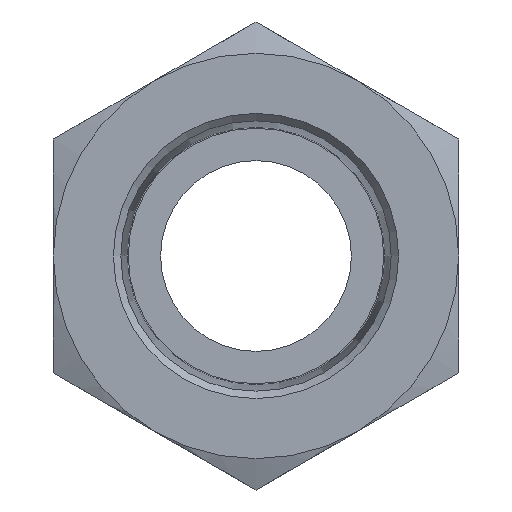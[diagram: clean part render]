
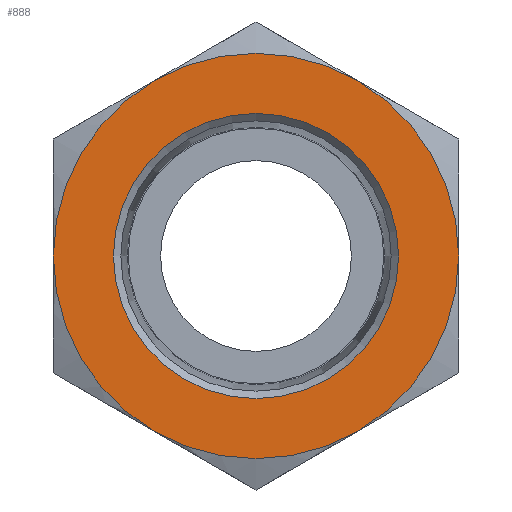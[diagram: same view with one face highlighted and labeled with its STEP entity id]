
A CAD part, front view. The second image highlights one B-rep face of the part: STEP entity #888.
In plain terms, the highlighted planar face has unit normal (0, -1, 0).
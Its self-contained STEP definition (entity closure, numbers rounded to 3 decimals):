
#32=FACE_BOUND('',#167,.T.);
#108=FACE_OUTER_BOUND('',#166,.T.);
#166=EDGE_LOOP('',(#726,#727,#728,#729,#730,#731));
#167=EDGE_LOOP('',(#732));
#223=CIRCLE('',#991,5.979);
#227=CIRCLE('',#997,8.5);
#228=CIRCLE('',#998,8.5);
#229=CIRCLE('',#999,8.5);
#230=CIRCLE('',#1000,8.5);
#231=CIRCLE('',#1001,8.5);
#232=CIRCLE('',#1002,8.5);
#398=VERTEX_POINT('',#1411);
#403=VERTEX_POINT('',#1432);
#407=VERTEX_POINT('',#1451);
#411=VERTEX_POINT('',#1470);
#427=VERTEX_POINT('',#1525);
#431=VERTEX_POINT('',#1539);
#432=VERTEX_POINT('',#1541);
#534=EDGE_CURVE('',#427,#427,#223,.T.);
#540=EDGE_CURVE('',#407,#403,#227,.T.);
#541=EDGE_CURVE('',#403,#398,#228,.T.);
#542=EDGE_CURVE('',#398,#431,#229,.T.);
#543=EDGE_CURVE('',#431,#432,#230,.T.);
#544=EDGE_CURVE('',#432,#411,#231,.T.);
#545=EDGE_CURVE('',#411,#407,#232,.T.);
#726=ORIENTED_EDGE('',*,*,#540,.T.);
#727=ORIENTED_EDGE('',*,*,#541,.T.);
#728=ORIENTED_EDGE('',*,*,#542,.T.);
#729=ORIENTED_EDGE('',*,*,#543,.T.);
#730=ORIENTED_EDGE('',*,*,#544,.T.);
#731=ORIENTED_EDGE('',*,*,#545,.T.);
#732=ORIENTED_EDGE('',*,*,#534,.F.);
#848=PLANE('',#996);
#888=ADVANCED_FACE('',(#108,#32),#848,.F.);
#991=AXIS2_PLACEMENT_3D('',#1526,#1201,#1202);
#996=AXIS2_PLACEMENT_3D('',#1536,#1213,#1214);
#997=AXIS2_PLACEMENT_3D('',#1537,#1215,#1216);
#998=AXIS2_PLACEMENT_3D('',#1538,#1217,#1218);
#999=AXIS2_PLACEMENT_3D('',#1540,#1219,#1220);
#1000=AXIS2_PLACEMENT_3D('',#1542,#1221,#1222);
#1001=AXIS2_PLACEMENT_3D('',#1543,#1223,#1224);
#1002=AXIS2_PLACEMENT_3D('',#1544,#1225,#1226);
#1201=DIRECTION('center_axis',(0.,-1.,0.));
#1202=DIRECTION('ref_axis',(-1.,0.,0.));
#1213=DIRECTION('center_axis',(0.,1.,0.));
#1214=DIRECTION('ref_axis',(0.,0.,1.));
#1215=DIRECTION('center_axis',(0.,-1.,0.));
#1216=DIRECTION('ref_axis',(1.,0.,0.));
#1217=DIRECTION('center_axis',(0.,-1.,0.));
#1218=DIRECTION('ref_axis',(1.,0.,0.));
#1219=DIRECTION('center_axis',(0.,-1.,0.));
#1220=DIRECTION('ref_axis',(1.,0.,0.));
#1221=DIRECTION('center_axis',(0.,-1.,0.));
#1222=DIRECTION('ref_axis',(1.,0.,0.));
#1223=DIRECTION('center_axis',(0.,-1.,0.));
#1224=DIRECTION('ref_axis',(1.,0.,0.));
#1225=DIRECTION('center_axis',(0.,-1.,0.));
#1226=DIRECTION('ref_axis',(1.,0.,0.));
#1411=CARTESIAN_POINT('',(8.5,0.,0.));
#1432=CARTESIAN_POINT('',(4.25,0.,-7.361));
#1451=CARTESIAN_POINT('',(-4.25,0.,-7.361));
#1470=CARTESIAN_POINT('',(-8.5,0.,0.));
#1525=CARTESIAN_POINT('',(5.979,0.,0.));
#1526=CARTESIAN_POINT('Origin',(0.,0.,0.));
#1536=CARTESIAN_POINT('Origin',(0.,0.,0.));
#1537=CARTESIAN_POINT('Origin',(0.,0.,0.));
#1538=CARTESIAN_POINT('Origin',(0.,0.,0.));
#1539=CARTESIAN_POINT('',(4.25,0.,7.361));
#1540=CARTESIAN_POINT('Origin',(0.,0.,0.));
#1541=CARTESIAN_POINT('',(-4.25,0.,7.361));
#1542=CARTESIAN_POINT('Origin',(0.,0.,0.));
#1543=CARTESIAN_POINT('Origin',(0.,0.,0.));
#1544=CARTESIAN_POINT('Origin',(0.,0.,0.));
